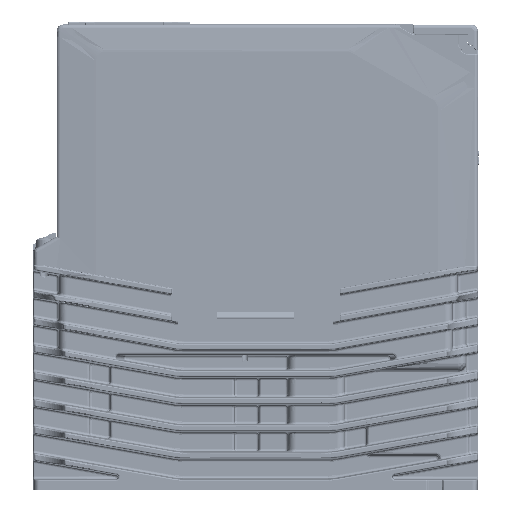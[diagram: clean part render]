
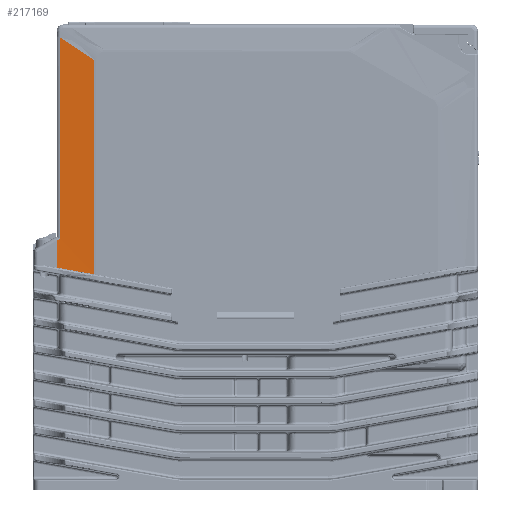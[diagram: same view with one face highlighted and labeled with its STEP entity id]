
A CAD part, left-side view. The second image highlights one B-rep face of the part: STEP entity #217169.
In plain terms, the highlighted cylindrical face has radius 113 mm (diameter 226 mm), a partial arc.
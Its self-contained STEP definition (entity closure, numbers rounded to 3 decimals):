
#11480 = CARTESIAN_POINT ( 'NONE',  ( -19.01, 75.52, -4.99 ) ) ;
#15624 = VECTOR ( 'NONE', #252872, 1000. ) ;
#18624 = VERTEX_POINT ( 'NONE', #60766 ) ;
#19438 = CARTESIAN_POINT ( 'NONE',  ( -19.01, 75.52, -56.892 ) ) ;
#21707 = CARTESIAN_POINT ( 'NONE',  ( -19.067, 71.137, -7.919 ) ) ;
#27136 = ORIENTED_EDGE ( 'NONE', *, *, #106360, .F. ) ;
#36595 = CARTESIAN_POINT ( 'NONE',  ( -132., 77., -175.9 ) ) ;
#41299 = EDGE_CURVE ( 'NONE', #18624, #294914, #295839, .T. ) ;
#44485 = B_SPLINE_CURVE_WITH_KNOTS ( 'NONE', 3,
 ( #336087, #19438, #72741, #100226 ),
 .UNSPECIFIED., .F., .F.,
 ( 4, 4 ),
 ( 0., 1. ),
 .UNSPECIFIED. ) ;
#51499 = VERTEX_POINT ( 'NONE', #334597 ) ;
#56154 = CARTESIAN_POINT ( 'NONE',  ( -19., 76.507, -83.42 ) ) ;
#60766 = CARTESIAN_POINT ( 'NONE',  ( -19.95, 62.381, -96.589 ) ) ;
#69171 = DIRECTION ( 'NONE',  ( 0., 0., 1. ) ) ;
#72741 = CARTESIAN_POINT ( 'NONE',  ( -19.01, 75.52, -30.941 ) ) ;
#73409 = EDGE_CURVE ( 'NONE', #147481, #51499, #155131, .T. ) ;
#78380 = CARTESIAN_POINT ( 'NONE',  ( -19.95, 62.381, -13.747 ) ) ;
#80016 = CARTESIAN_POINT ( 'NONE',  ( -19.95, 62.381, -68.975 ) ) ;
#80092 = CARTESIAN_POINT ( 'NONE',  ( -19.01, 75.52, -4.99 ) ) ;
#92202 = B_SPLINE_CURVE_WITH_KNOTS ( 'NONE', 3,
 ( #99013, #183287, #80016, #184998 ),
 .UNSPECIFIED., .F., .F.,
 ( 4, 4 ),
 ( 0., 1. ),
 .UNSPECIFIED. ) ;
#92314 = VERTEX_POINT ( 'NONE', #96172 ) ;
#93264 = CYLINDRICAL_SURFACE ( 'NONE', #234295, 113. ) ;
#96172 = CARTESIAN_POINT ( 'NONE',  ( -19., 77., -83.709 ) ) ;
#99013 = CARTESIAN_POINT ( 'NONE',  ( -19.95, 62.381, -13.747 ) ) ;
#100226 = CARTESIAN_POINT ( 'NONE',  ( -19.01, 75.52, -4.99 ) ) ;
#106360 = EDGE_CURVE ( 'NONE', #92314, #183874, #249775, .T. ) ;
#113981 = CARTESIAN_POINT ( 'NONE',  ( -19.95, 62.381, -96.589 ) ) ;
#118821 = CARTESIAN_POINT ( 'NONE',  ( -19., 77., -93.991 ) ) ;
#147481 = VERTEX_POINT ( 'NONE', #11480 ) ;
#148338 = DIRECTION ( 'NONE',  ( 0., -1., 0. ) ) ;
#151338 = ORIENTED_EDGE ( 'NONE', *, *, #73409, .F. ) ;
#155131 = B_SPLINE_CURVE_WITH_KNOTS ( 'NONE', 3,
 ( #80092, #21707, #257518, #78380 ),
 .UNSPECIFIED., .F., .F.,
 ( 4, 4 ),
 ( 0., 1. ),
 .UNSPECIFIED. ) ;
#160657 = EDGE_CURVE ( 'NONE', #183874, #147481, #44485, .T. ) ;
#162350 = ORIENTED_EDGE ( 'NONE', *, *, #339429, .F. ) ;
#183287 = CARTESIAN_POINT ( 'NONE',  ( -19.95, 62.381, -41.361 ) ) ;
#183874 = VERTEX_POINT ( 'NONE', #286452 ) ;
#184998 = CARTESIAN_POINT ( 'NONE',  ( -19.95, 62.381, -96.589 ) ) ;
#185842 = EDGE_LOOP ( 'NONE', ( #27136, #241947, #207224, #162350, #151338, #203069 ) ) ;
#188643 = CARTESIAN_POINT ( 'NONE',  ( -19.003, 76.013, -83.132 ) ) ;
#195015 = CARTESIAN_POINT ( 'NONE',  ( -19., 77., -83.709 ) ) ;
#201201 = CARTESIAN_POINT ( 'NONE',  ( -19., 77., -175.9 ) ) ;
#203069 = ORIENTED_EDGE ( 'NONE', *, *, #160657, .F. ) ;
#207224 = ORIENTED_EDGE ( 'NONE', *, *, #41299, .F. ) ;
#207974 = LINE ( 'NONE', #201201, #15624 ) ;
#217169 = ADVANCED_FACE ( 'NONE', ( #305007 ), #93264, .F. ) ;
#224099 = CARTESIAN_POINT ( 'NONE',  ( -19.317, 67.234, -95.72 ) ) ;
#234295 = AXIS2_PLACEMENT_3D ( 'NONE', #36595, #69171, #148338 ) ;
#241947 = ORIENTED_EDGE ( 'NONE', *, *, #336505, .F. ) ;
#249775 = B_SPLINE_CURVE_WITH_KNOTS ( 'NONE', 3,
 ( #195015, #56154, #188643, #327578 ),
 .UNSPECIFIED., .F., .F.,
 ( 4, 4 ),
 ( 0., 1. ),
 .UNSPECIFIED. ) ;
#252872 = DIRECTION ( 'NONE',  ( 0., 0., 1. ) ) ;
#257518 = CARTESIAN_POINT ( 'NONE',  ( -19.379, 66.755, -10.846 ) ) ;
#272368 = CARTESIAN_POINT ( 'NONE',  ( -19., 77., -93.991 ) ) ;
#286452 = CARTESIAN_POINT ( 'NONE',  ( -19.01, 75.52, -82.843 ) ) ;
#294914 = VERTEX_POINT ( 'NONE', #118821 ) ;
#295839 = B_SPLINE_CURVE_WITH_KNOTS ( 'NONE', 3,
 ( #113981, #224099, #327429, #272368 ),
 .UNSPECIFIED., .F., .F.,
 ( 4, 4 ),
 ( 0., 1. ),
 .UNSPECIFIED. ) ;
#305007 = FACE_OUTER_BOUND ( 'NONE', #185842, .T. ) ;
#327429 = CARTESIAN_POINT ( 'NONE',  ( -19., 72.107, -94.854 ) ) ;
#327578 = CARTESIAN_POINT ( 'NONE',  ( -19.01, 75.52, -82.843 ) ) ;
#334597 = CARTESIAN_POINT ( 'NONE',  ( -19.95, 62.381, -13.747 ) ) ;
#336087 = CARTESIAN_POINT ( 'NONE',  ( -19.01, 75.52, -82.843 ) ) ;
#336505 = EDGE_CURVE ( 'NONE', #294914, #92314, #207974, .T. ) ;
#339429 = EDGE_CURVE ( 'NONE', #51499, #18624, #92202, .T. ) ;
